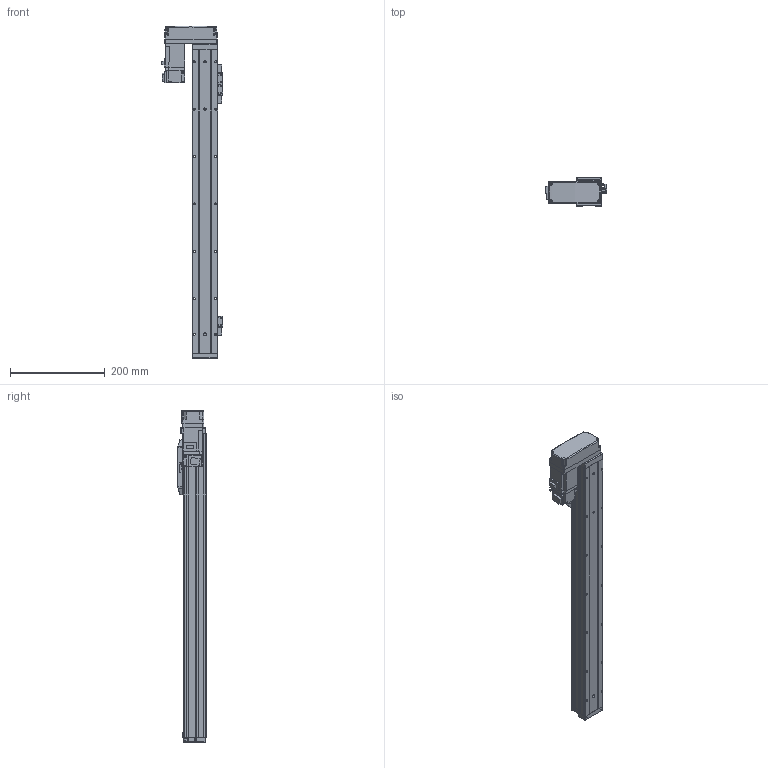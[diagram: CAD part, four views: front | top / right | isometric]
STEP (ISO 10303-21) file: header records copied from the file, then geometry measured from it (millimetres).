
FILE_DESCRIPTION (( 'STEP AP214' ), '1' );
FILE_NAME ('N_GRH5-500-BR-M10.step', '2025-03-14T10:58:09', ( '' ), ( '' ), 'SwSTEP 2.0', 'SolidWorks 2016', '' );
FILE_SCHEMA (( 'AUTOMOTIVE_DESIGN' ));
Length unit declared in the file: millimetre
Products named in the file (5): N_GRH5-500-BR-M10; N_GRH5-BL-008^N_GRH5-500-BR-M10; N_GRH5-GY-011^N_GRH5-500-BR-M10; N_GRH5-GY-004^N_GRH5-500-BR-M10; HF-KP13_100W_Motor^N_GRH5-500-BR-M10
Assembly tree (4 placements, depth 2):
  N_GRH5-500-BR-M10
    N_GRH5-GY-011^N_GRH5-500-BR-M10
    N_GRH5-GY-004^N_GRH5-500-BR-M10
    HF-KP13_100W_Motor^N_GRH5-500-BR-M10
    N_GRH5-BL-008^N_GRH5-500-BR-M10
Bounding box: 128.85 x 60 x 700.5 mm (x, y, z)
Volume: 1379884 mm3; surface area: 345315.1 mm2
Topology: 4 solids, 5 shells, 954 faces, 2432 edges, 1541 vertices
Faces by surface type: plane 551, cylinder 328, cone 50, bspline 15, sphere 10
Entity records: 36291 total; most frequent: CARTESIAN_POINT 5693, DIRECTION 4925, ORIENTED_EDGE 4800, EDGE_CURVE 2400, VECTOR 1651, LINE 1651, AXIS2_PLACEMENT_3D 1637, VERTEX_POINT 1539
